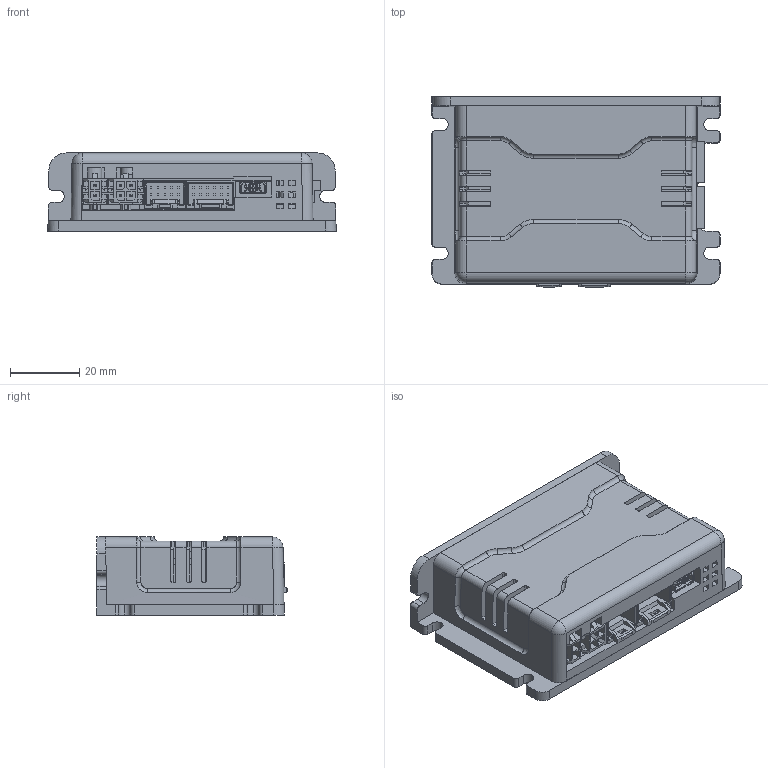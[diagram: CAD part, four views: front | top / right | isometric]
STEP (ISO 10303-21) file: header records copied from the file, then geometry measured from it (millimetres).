
FILE_DESCRIPTION (( 'STEP AP203' ), '1' );
FILE_NAME ('P11M-DR-000-01-R00.STEP', '2020-04-02T01:27:36', ( '' ), ( '' ), 'SwSTEP 2.0', 'SolidWorks 2013', '' );
FILE_SCHEMA (( 'CONFIG_CONTROL_DESIGN' ));
Length unit declared in the file: millimetre
Products named in the file (12): P11M-DR-000-01-R00; countersunk flat cross head screw_ks_KS 1023 FC- M3 x 14-N; S05B-PASK-2_1; 5018761240_1; 430450200; 430450400; M11H-DR-000-02-R00; Ezi-SERVO MINI PCB1; M11M-DR-000-01-R00; Ezi-SERVO MINI PCB2; MOLEX_0678038020; 5018761040
Assembly tree (13 placements, depth 2):
  P11M-DR-000-01-R00
    Ezi-SERVO MINI PCB1
    Ezi-SERVO MINI PCB2
    5018761040
    countersunk flat cross head screw_ks_KS 1023 FC- M3 x 14-N  x2
    S05B-PASK-2_1  x2
    5018761240_1
    430450200
    430450400
    M11H-DR-000-02-R00
    M11M-DR-000-01-R00
    MOLEX_0678038020
Bounding box: 82.99 x 54.8 x 22.5 mm (x, y, z)
Volume: 42728.5 mm3; surface area: 43301.2 mm2
Topology: 15 solids, 15 shells, 2441 faces, 6661 edges, 4320 vertices
Faces by surface type: plane 1902, cylinder 411, bspline 56, cone 46, torus 22, sphere 4
Entity records: 76221 total; most frequent: CARTESIAN_POINT 16589, ORIENTED_EDGE 12656, DIRECTION 11201, EDGE_CURVE 6328, VECTOR 5331, LINE 5331, VERTEX_POINT 4107, AXIS2_PLACEMENT_3D 2935
